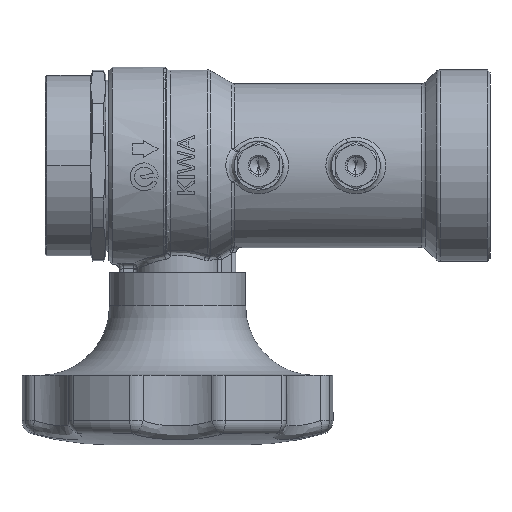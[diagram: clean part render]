
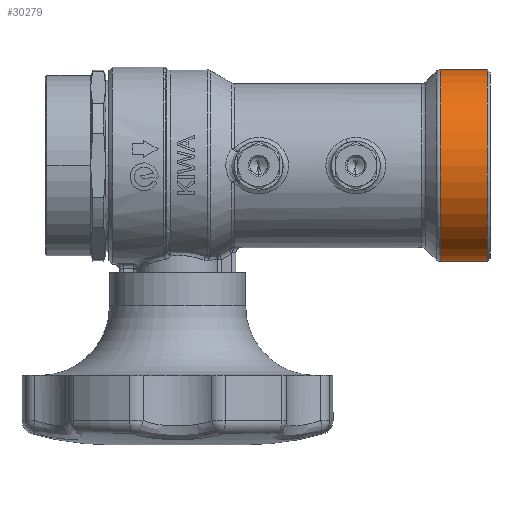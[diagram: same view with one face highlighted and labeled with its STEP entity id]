
A CAD part, front view. The second image highlights one B-rep face of the part: STEP entity #30279.
In plain terms, the highlighted cylindrical face has radius 34.5 mm (diameter 69 mm), a partial arc.
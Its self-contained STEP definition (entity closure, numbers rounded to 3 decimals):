
#853 = DIRECTION ( 'NONE',  ( 1., 0., 0. ) ) ;
#1538 = CARTESIAN_POINT ( 'NONE',  ( -26.7, 0., 0. ) ) ;
#4009 = CARTESIAN_POINT ( 'NONE',  ( -26.7, 0., 34.5 ) ) ;
#4168 = CARTESIAN_POINT ( 'NONE',  ( 94.528, 0., -34.5 ) ) ;
#5555 = DIRECTION ( 'NONE',  ( -1., 0., 0. ) ) ;
#5667 = FACE_OUTER_BOUND ( 'NONE', #24593, .T. ) ;
#6712 = EDGE_CURVE ( 'NONE', #30124, #14483, #7184, .T. ) ;
#7184 = CIRCLE ( 'NONE', #34314, 34.5 ) ;
#7389 = CYLINDRICAL_SURFACE ( 'NONE', #12105, 34.5 ) ;
#8323 = DIRECTION ( 'NONE',  ( 0., 0., 1. ) ) ;
#8360 = EDGE_CURVE ( 'NONE', #25207, #12133, #29499, .T. ) ;
#9216 = CARTESIAN_POINT ( 'NONE',  ( 94.528, 0., 0. ) ) ;
#11077 = AXIS2_PLACEMENT_3D ( 'NONE', #13978, #5555, #8323 ) ;
#12009 = DIRECTION ( 'NONE',  ( 1., 0., 0. ) ) ;
#12105 = AXIS2_PLACEMENT_3D ( 'NONE', #1538, #34836, #12678 ) ;
#12133 = VERTEX_POINT ( 'NONE', #14261 ) ;
#12678 = DIRECTION ( 'NONE',  ( 0., 0., -1. ) ) ;
#13207 = ORIENTED_EDGE ( 'NONE', *, *, #8360, .T. ) ;
#13978 = CARTESIAN_POINT ( 'NONE',  ( 111.5, 0., 0. ) ) ;
#14261 = CARTESIAN_POINT ( 'NONE',  ( 111.5, 0., 34.5 ) ) ;
#14483 = VERTEX_POINT ( 'NONE', #4168 ) ;
#14815 = DIRECTION ( 'NONE',  ( 1., 0., 0. ) ) ;
#15008 = CARTESIAN_POINT ( 'NONE',  ( 111.5, 0., -34.5 ) ) ;
#17766 = ORIENTED_EDGE ( 'NONE', *, *, #6712, .T. ) ;
#20035 = DIRECTION ( 'NONE',  ( 0., 0., 1. ) ) ;
#20144 = CARTESIAN_POINT ( 'NONE',  ( 94.528, 0., 34.5 ) ) ;
#20328 = CARTESIAN_POINT ( 'NONE',  ( -26.7, 0., -34.5 ) ) ;
#24050 = LINE ( 'NONE', #20328, #27048 ) ;
#24593 = EDGE_LOOP ( 'NONE', ( #35490, #17766, #25747, #13207 ) ) ;
#25207 = VERTEX_POINT ( 'NONE', #15008 ) ;
#25747 = ORIENTED_EDGE ( 'NONE', *, *, #28538, .T. ) ;
#27048 = VECTOR ( 'NONE', #12009, 1000. ) ;
#27863 = VECTOR ( 'NONE', #14815, 1000. ) ;
#28040 = EDGE_CURVE ( 'NONE', #30124, #12133, #35228, .T. ) ;
#28538 = EDGE_CURVE ( 'NONE', #14483, #25207, #24050, .T. ) ;
#29499 = CIRCLE ( 'NONE', #11077, 34.5 ) ;
#30124 = VERTEX_POINT ( 'NONE', #20144 ) ;
#30279 = ADVANCED_FACE ( 'NONE', ( #5667 ), #7389, .T. ) ;
#34314 = AXIS2_PLACEMENT_3D ( 'NONE', #9216, #853, #20035 ) ;
#34836 = DIRECTION ( 'NONE',  ( 1., 0., 0. ) ) ;
#35228 = LINE ( 'NONE', #4009, #27863 ) ;
#35490 = ORIENTED_EDGE ( 'NONE', *, *, #28040, .F. ) ;
